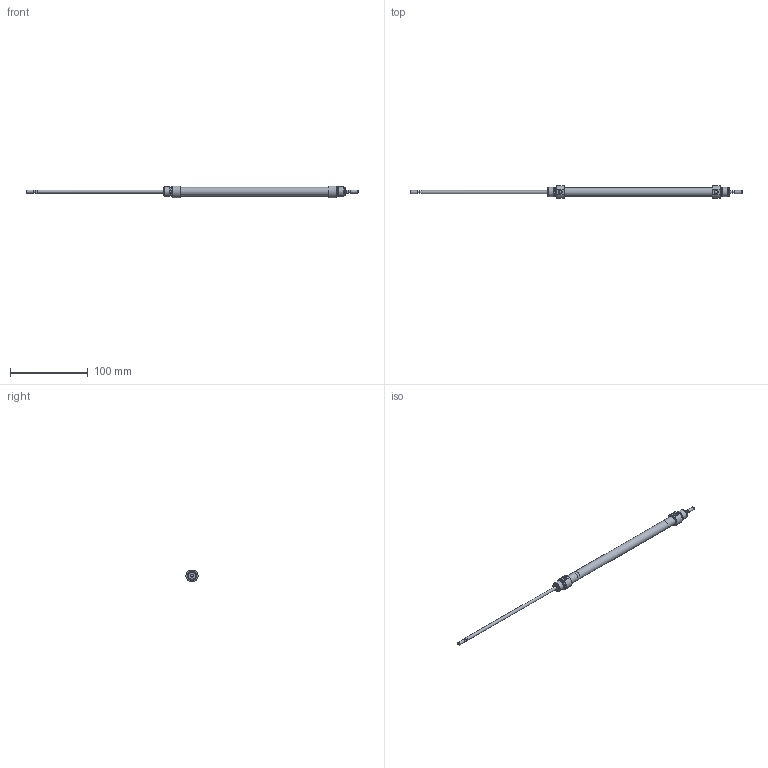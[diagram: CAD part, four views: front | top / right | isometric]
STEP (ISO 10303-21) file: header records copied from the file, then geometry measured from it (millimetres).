
FILE_DESCRIPTION( ( 'STEP AP203' ), '1' );
FILE_NAME( '//expscmdclustefs.cadenas.external/client_exchange/iodir/jobs/output/wkb68274616_no0/STEP/M101-010-0160-M__0__2_03.stp', ' ', ( ' ' ), ( ' ' ), 'PSStep 15.0.47', 'PARTsolutions', ' ' );
FILE_SCHEMA( ( 'CONFIG_CONTROL_DESIGN' ) );
Length unit declared in the file: millimetre
Products named in the file (3): M101-010-0160-M [0]; HI_M101-010-0160-M-[0]-z; HI_M101-010-0160-M-[0]-k
Assembly tree (2 placements, depth 2):
  M101-010-0160-M [0]
    HI_M101-010-0160-M-[0]-z
    HI_M101-010-0160-M-[0]-k
Bounding box: 426 x 15.77 x 14.87 mm (x, y, z)
Volume: 17110.8 mm3; surface area: 21006.5 mm2
Topology: 2 solids, 2 shells, 71 faces, 145 edges, 88 vertices
Faces by surface type: plane 32, cylinder 23, cone 14, torus 2
Full cylindrical faces by diameter (mm): 3.141 x2, 4 x6, 4.134 x2, 10 x2, 10.466 x4, 11.3 x1, 12 x4
Entity records: 1832 total; most frequent: CARTESIAN_POINT 352, DIRECTION 312, ORIENTED_EDGE 212, AXIS2_PLACEMENT_3D 140, EDGE_LOOP 120, EDGE_CURVE 106, FACE_OUTER_BOUND 94, VERTEX_POINT 82
